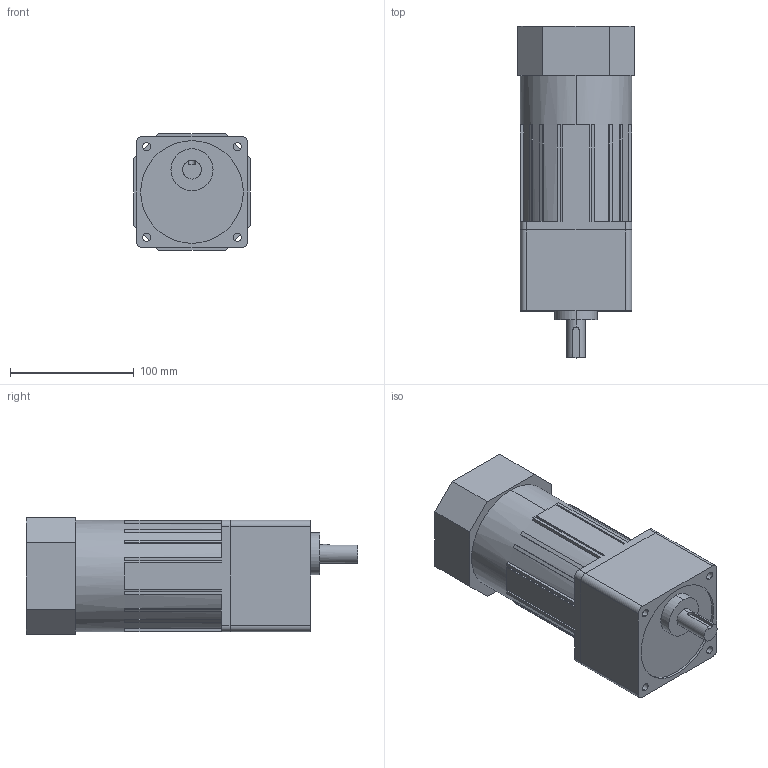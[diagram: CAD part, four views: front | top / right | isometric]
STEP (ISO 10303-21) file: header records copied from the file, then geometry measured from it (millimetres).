
FILE_DESCRIPTION (( 'STEP AP203' ), '1' );
FILE_NAME ('L9VK003B + L9R60PBHE.STEP', '2018-09-20T05:43:01', ( '' ), ( '' ), 'SwSTEP 2.0', 'SolidWorks 2017', '' );
FILE_SCHEMA (( 'CONFIG_CONTROL_DESIGN' ));
Length unit declared in the file: millimetre
Products named in the file (1): L9VK003B + L9R60PBHE
Bounding box: 94 x 268.5 x 94 mm (x, y, z)
Volume: 1659054.8 mm3; surface area: 120891.4 mm2
Topology: 2 solids, 2 shells, 144 faces, 402 edges, 266 vertices
Faces by surface type: plane 111, cylinder 33
Entity records: 4760 total; most frequent: CARTESIAN_POINT 845, ORIENTED_EDGE 804, DIRECTION 797, EDGE_CURVE 402, LINE 293, VECTOR 293, VERTEX_POINT 266, AXIS2_PLACEMENT_3D 252
